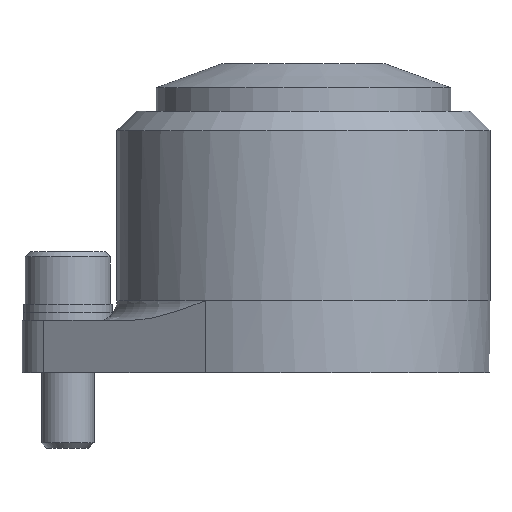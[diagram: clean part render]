
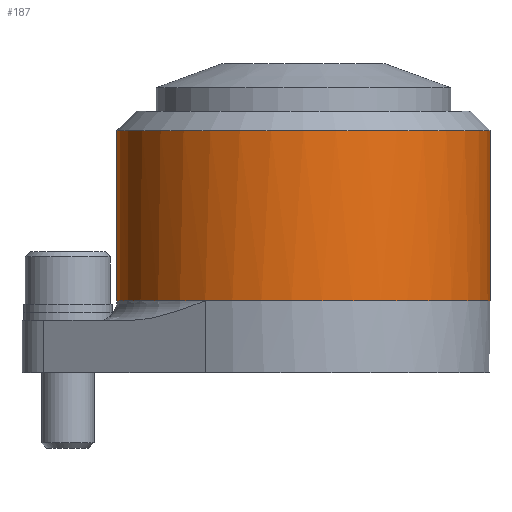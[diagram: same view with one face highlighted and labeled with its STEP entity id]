
A CAD part, front view. The second image highlights one B-rep face of the part: STEP entity #187.
In plain terms, the highlighted cylindrical face has radius 28.5 mm (diameter 57 mm), a partial arc.
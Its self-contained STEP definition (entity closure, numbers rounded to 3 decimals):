
#187=ADVANCED_FACE('',(#298),#262,.T.);
#262=CYLINDRICAL_SURFACE('',#1342,28.5);
#298=FACE_OUTER_BOUND('',#362,.T.);
#362=EDGE_LOOP('',(#563,#564,#565,#566,#567));
#448=CIRCLE('',#1317,28.5);
#466=CIRCLE('',#1340,28.5);
#467=CIRCLE('',#1341,28.5);
#563=ORIENTED_EDGE('',*,*,#983,.T.);
#564=ORIENTED_EDGE('',*,*,#1008,.T.);
#565=ORIENTED_EDGE('',*,*,#1009,.F.);
#566=ORIENTED_EDGE('',*,*,#1006,.F.);
#567=ORIENTED_EDGE('',*,*,#1010,.T.);
#873=VERTEX_POINT('',#1885);
#874=VERTEX_POINT('',#1887);
#892=VERTEX_POINT('',#1931);
#893=VERTEX_POINT('',#1933);
#894=VERTEX_POINT('',#1935);
#983=EDGE_CURVE('',#874,#873,#448,.T.);
#1006=EDGE_CURVE('',#892,#893,#1158,.T.);
#1008=EDGE_CURVE('',#873,#894,#1159,.T.);
#1009=EDGE_CURVE('',#893,#894,#466,.T.);
#1010=EDGE_CURVE('',#892,#874,#467,.T.);
#1158=LINE('',#1932,#1240);
#1159=LINE('',#1936,#1241);
#1240=VECTOR('',#1529,1.);
#1241=VECTOR('',#1532,1.);
#1317=AXIS2_PLACEMENT_3D('',#1886,#1481,#1482);
#1340=AXIS2_PLACEMENT_3D('',#1938,#1535,#1536);
#1341=AXIS2_PLACEMENT_3D('',#1939,#1537,#1538);
#1342=AXIS2_PLACEMENT_3D('',#1940,#1539,#1540);
#1481=DIRECTION('',(0.,0.,1.));
#1482=DIRECTION('',(-1.,0.,0.));
#1529=DIRECTION('',(0.,0.,1.));
#1532=DIRECTION('',(0.,0.,1.));
#1535=DIRECTION('',(0.,0.,1.));
#1536=DIRECTION('',(0.,1.,0.));
#1537=DIRECTION('',(0.,0.,1.));
#1538=DIRECTION('',(0.,1.,0.));
#1539=DIRECTION('',(0.,0.,1.));
#1540=DIRECTION('',(0.,-1.,0.));
#1885=CARTESIAN_POINT('',(28.5,0.,11.));
#1886=CARTESIAN_POINT('',(0.,0.,11.));
#1887=CARTESIAN_POINT('',(-15.001,-24.232,11.));
#1931=CARTESIAN_POINT('',(-28.5,0.,11.));
#1932=CARTESIAN_POINT('',(-28.5,0.,37.));
#1933=CARTESIAN_POINT('',(-28.5,0.,37.));
#1935=CARTESIAN_POINT('',(28.5,0.,37.));
#1936=CARTESIAN_POINT('',(28.5,0.,37.));
#1938=CARTESIAN_POINT('',(0.,0.,37.));
#1939=CARTESIAN_POINT('',(0.,0.,11.));
#1940=CARTESIAN_POINT('',(0.,0.,0.));
